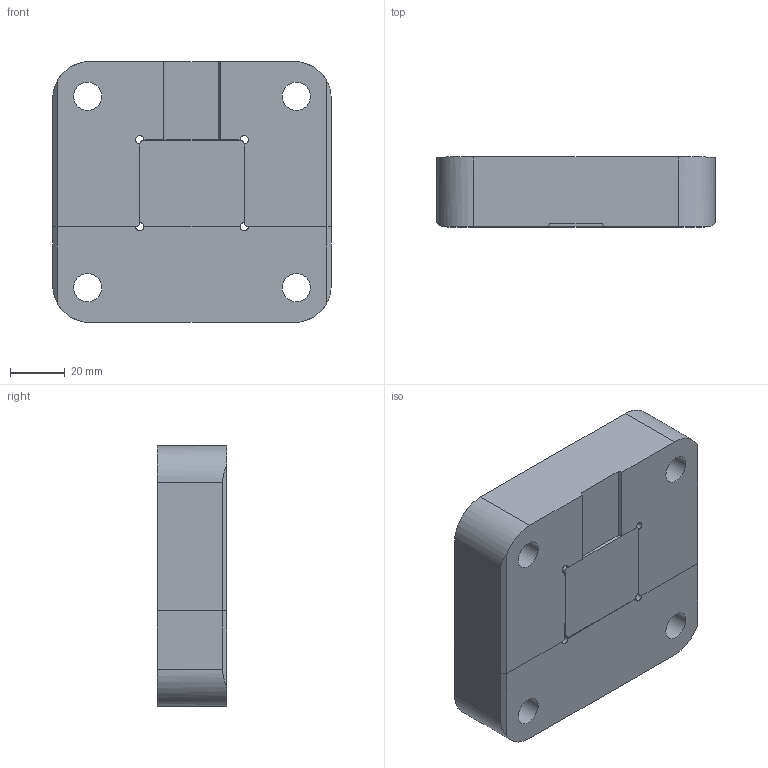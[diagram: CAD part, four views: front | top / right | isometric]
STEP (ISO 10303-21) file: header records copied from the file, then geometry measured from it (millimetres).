
FILE_DESCRIPTION(/* description */ ('STEP AP214'),/* implementation_level */ '2;1');
FILE_NAME(/* name */ 'BGS4000',/* time_stamp */ '2024-12-19T08:05:07+01:00',/* author */ ('License CC BY-ND 4.0'),/* organization */ ('CADENAS'),/* preprocessor_version */ 'ST-DEVELOPER v19.3',/* originating_system */ 'PARTsolutions',/* authorisation */ ' ');
FILE_SCHEMA (('AUTOMOTIVE_DESIGN {1 0 10303 214 3 1 1}'));
Length unit declared in the file: millimetre
Products named in the file (3): BGS4000; BGS4000M; BGS4000F
Assembly tree (2 placements, depth 2):
  BGS4000
    BGS4000M
    BGS4000F
Bounding box: 101.6 x 25.4 x 95.25 mm (x, y, z)
Volume: 227805.8 mm3; surface area: 40165.4 mm2
Topology: 2 solids, 2 shells, 54 faces, 138 edges, 92 vertices
Faces by surface type: plane 34, cylinder 20
Full cylindrical faces by diameter (mm): 10.312 x4, 14.732 x4
Entity records: 1700 total; most frequent: DIRECTION 290, CARTESIAN_POINT 279, ORIENTED_EDGE 260, EDGE_CURVE 130, AXIS2_PLACEMENT_3D 103, VERTEX_POINT 92, LINE 84, VECTOR 84
